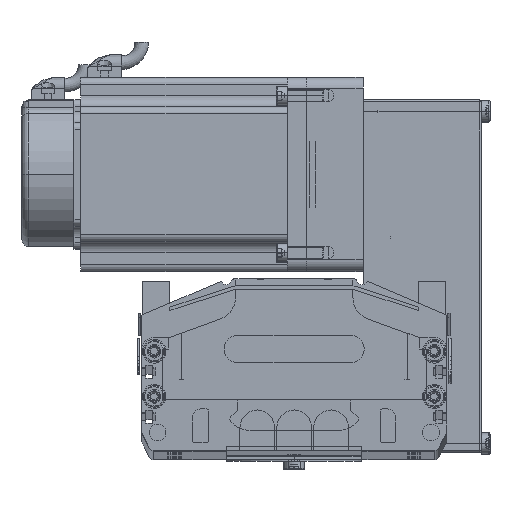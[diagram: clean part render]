
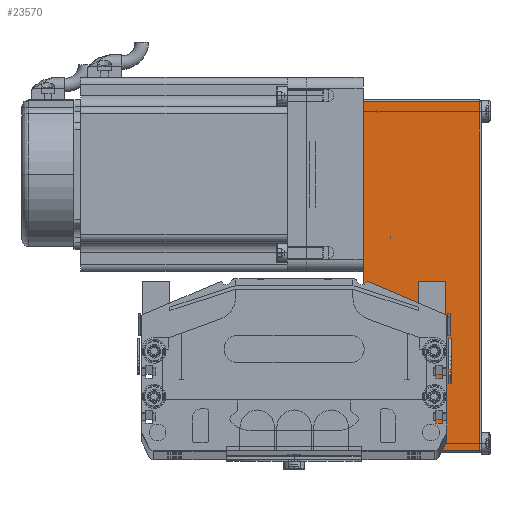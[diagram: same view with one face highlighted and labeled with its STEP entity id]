
A CAD part, top view. The second image highlights one B-rep face of the part: STEP entity #23570.
In plain terms, the highlighted planar face has unit normal (0, 0, 1) as drawn and (0, -1, 0) by its records, which use the part's own axes.
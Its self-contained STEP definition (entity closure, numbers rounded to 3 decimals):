
#23550 = ORIENTED_EDGE ( 'NONE', *, *, #23616, .T. ) ;
#23568 = VERTEX_POINT ( 'NONE', #50886 ) ;
#23569 = VERTEX_POINT ( 'NONE', #51064 ) ;
#23570 = ADVANCED_FACE ( 'NONE', ( #50772 ), #50704, .F. ) ;
#23574 = ORIENTED_EDGE ( 'NONE', *, *, #23704, .T. ) ;
#23611 = EDGE_CURVE ( 'NONE', #23687, #23568, #50970, .T. ) ;
#23612 = EDGE_LOOP ( 'NONE', ( #23574, #23628, #23615, #23550 ) ) ;
#23615 = ORIENTED_EDGE ( 'NONE', *, *, #23629, .T. ) ;
#23616 = EDGE_CURVE ( 'NONE', #23569, #23635, #50953, .T. ) ;
#23628 = ORIENTED_EDGE ( 'NONE', *, *, #23611, .T. ) ;
#23629 = EDGE_CURVE ( 'NONE', #23568, #23569, #50805, .T. ) ;
#23635 = VERTEX_POINT ( 'NONE', #38988 ) ;
#23687 = VERTEX_POINT ( 'NONE', #38920 ) ;
#23704 = EDGE_CURVE ( 'NONE', #23635, #23687, #39125, .T. ) ;
#38862 = DIRECTION ( 'NONE',  ( 1., 0., 0. ) ) ;
#38865 = VECTOR ( 'NONE', #38862, 1000. ) ;
#38866 = CARTESIAN_POINT ( 'NONE',  ( 32., -40., 0. ) ) ;
#38920 = CARTESIAN_POINT ( 'NONE',  ( 31., -40., 0. ) ) ;
#38988 = CARTESIAN_POINT ( 'NONE',  ( -123.2, -40., 0. ) ) ;
#39125 = LINE ( 'NONE', #38866, #38865 ) ;
#50704 = PLANE ( 'NONE',  #51208 ) ;
#50768 = CARTESIAN_POINT ( 'NONE',  ( 32., -40., 52.5 ) ) ;
#50772 = FACE_OUTER_BOUND ( 'NONE', #23612, .T. ) ;
#50773 = DIRECTION ( 'NONE',  ( 0., 1., 0. ) ) ;
#50796 = DIRECTION ( 'NONE',  ( -1., 0., 0. ) ) ;
#50797 = VECTOR ( 'NONE', #50796, 1000. ) ;
#50803 = CARTESIAN_POINT ( 'NONE',  ( 32., -40., 51.5 ) ) ;
#50805 = LINE ( 'NONE', #50803, #50797 ) ;
#50848 = DIRECTION ( 'NONE',  ( 0., 0., -1. ) ) ;
#50850 = VECTOR ( 'NONE', #50848, 1000. ) ;
#50858 = CARTESIAN_POINT ( 'NONE',  ( -123.2, -40., 52.5 ) ) ;
#50886 = CARTESIAN_POINT ( 'NONE',  ( 31., -40., 51.5 ) ) ;
#50917 = DIRECTION ( 'NONE',  ( -1., 0., 0. ) ) ;
#50937 = DIRECTION ( 'NONE',  ( 0., 0., 1. ) ) ;
#50938 = VECTOR ( 'NONE', #50937, 1000. ) ;
#50939 = CARTESIAN_POINT ( 'NONE',  ( 31., -40., 52.5 ) ) ;
#50953 = LINE ( 'NONE', #50858, #50850 ) ;
#50970 = LINE ( 'NONE', #50939, #50938 ) ;
#51064 = CARTESIAN_POINT ( 'NONE',  ( -123.2, -40., 51.5 ) ) ;
#51208 = AXIS2_PLACEMENT_3D ( 'NONE', #50768, #50773, #50917 ) ;
